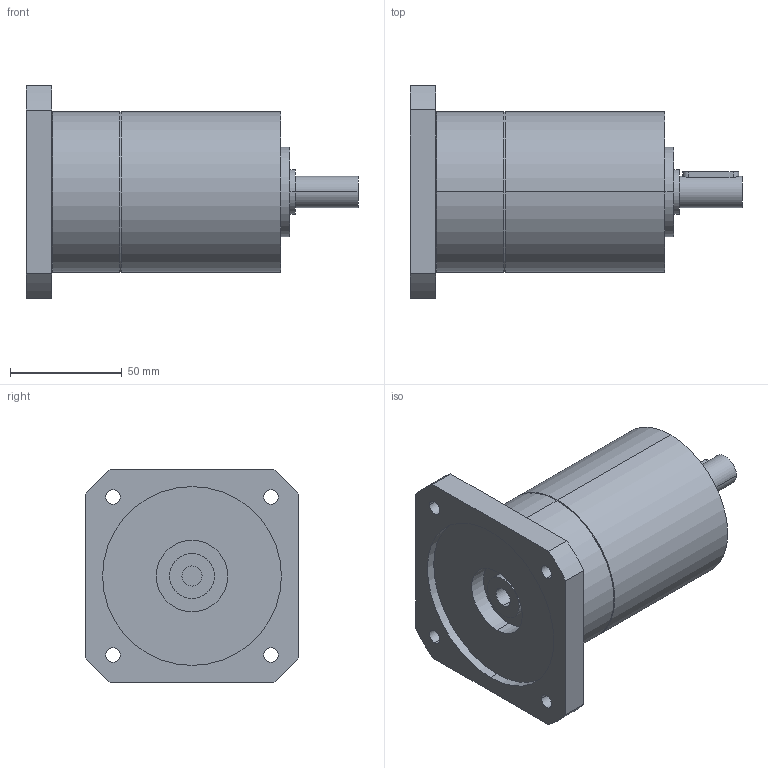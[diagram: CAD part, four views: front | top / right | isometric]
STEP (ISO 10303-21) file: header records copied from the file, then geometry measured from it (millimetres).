
FILE_DESCRIPTION(('CoCreate Modeling STEP Export'),'2;1');
FILE_NAME('GPT75_ig-9-12-16-20-25-28-35-40-50-70-100_14_B14T_9_P07.stp','2014-08-27T13:27:08',(''),(''),'CoCreate Modeling STEP processor for AP214 (Solid Model)','CoCreate Modeling 16.00C 25-Feb-2009 (C) Parametric Technology GmbH','');
FILE_SCHEMA(('AUTOMOTIVE_DESIGN { 1 0 10303 214 1 1 1 1 }'));
Length unit declared in the file: millimetre
Products named in the file (2): GPT75_ig-9-12-16-20-25-28-35-40-50-70-100_14_B14T_9_P07
Assembly tree (1 placements, depth 2):
  GPT75_ig-9-12-16-20-25-28-35-40-50-70-100_14_B14T_9_P07
    GPT75_ig-9-12-16-20-25-28-35-40-50-70-100_14_B14T_9_P07
Bounding box: 148.5 x 95 x 95 mm (x, y, z)
Volume: 499345.1 mm3; surface area: 51597.6 mm2
Topology: 1 solids, 1 shells, 69 faces, 162 edges, 109 vertices
Faces by surface type: cylinder 42, plane 23, cone 4
Entity records: 2141 total; most frequent: CARTESIAN_POINT 660, ORIENTED_EDGE 324, DIRECTION 262, EDGE_CURVE 162, VERTEX_POINT 109, AXIS2_PLACEMENT_3D 99, EDGE_LOOP 91, FACE_OUTER_BOUND 69
